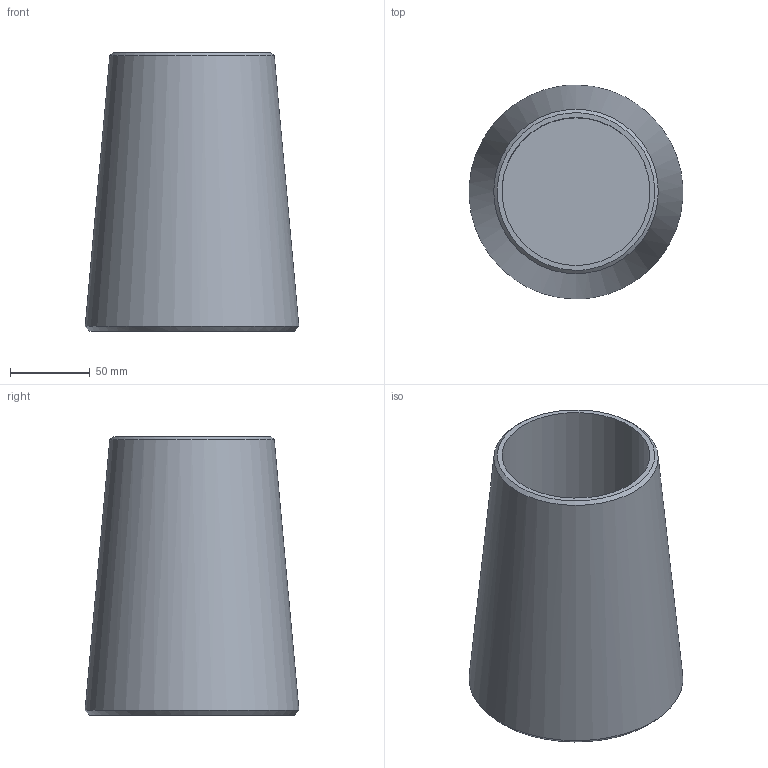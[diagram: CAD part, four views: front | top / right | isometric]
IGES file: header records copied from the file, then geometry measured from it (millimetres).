
Global section: file name: 520-090-KMU; native system: Autodesk Inventor 2016; preprocessor: unknown; author: BAYR; date: 20200618.123738; units: millimetre
Bounding box: 134.28 x 134.45 x 175 mm (x, y, z)
Volume: 1072880.2 mm3; surface area: 125182 mm2
Topology: 1 solids, 1 shells, 7 faces, 14 edges, 10 vertices
Faces by surface type: bspline 7
